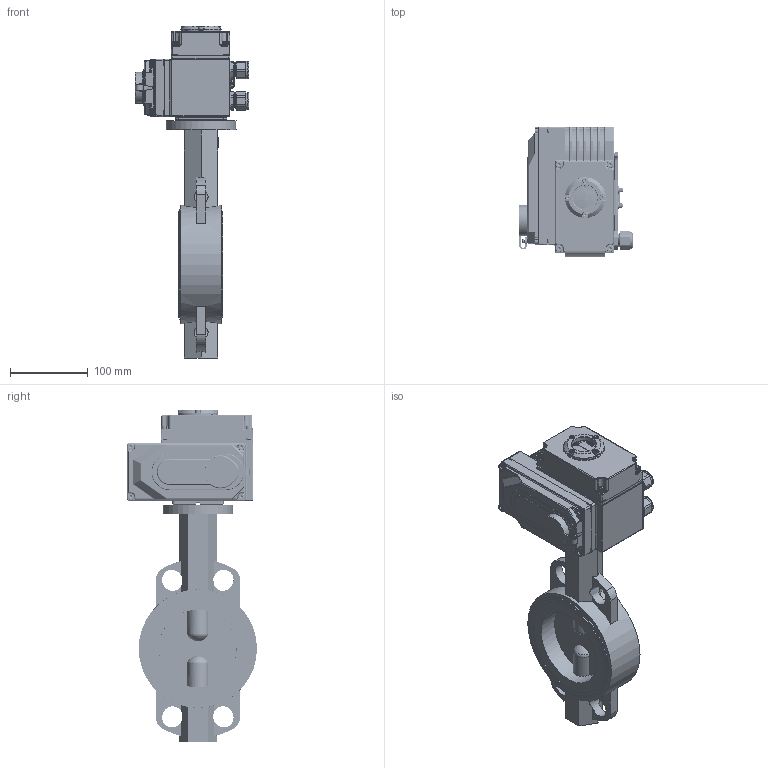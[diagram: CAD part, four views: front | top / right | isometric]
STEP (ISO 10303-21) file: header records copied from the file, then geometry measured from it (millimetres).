
FILE_DESCRIPTION(('STEP AP203'), '1');
FILE_NAME('3D_200_201-100-16-Ï.31', '', ('UNSPECIFIED'), ('UNSPECIFIED'), 'C3D Converter', 'C3D Toolkit', '');
FILE_SCHEMA(('CONFIG_CONTROL_DESIGN'));
Length unit declared in the file: millimetre
Bounding box: 145.5 x 167 x 426.5 mm (x, y, z)
Volume: 18332.1 mm3; surface area: 267274.3 mm2
Topology: 42 solids, 43 shells, 5896 faces, 16276 edges, 10453 vertices
Faces by surface type: plane 3467, cylinder 1364, cone 326, bspline 319, torus 309, sphere 111
Full cylindrical faces by diameter (mm): 2 x2, 2.5 x3, 3 x2, 3.2 x1, 3.3 x2, 4 x20, 4.2 x7, 4.4 x8, 4.5 x4, 4.7 x4, 5 x48, 5.6 x1, 5.8 x8, 6 x23, 6.4 x2, 6.8 x4, 7 x4, 7.8 x8, 9 x2, 9.78 x4, 10 x5, 10.5 x2, 12 x4, 16 x2, 20 x2, 22 x2, 25 x1, 30 x1, 32 x2, 37.7 x1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
Entity records: 348165 total; most frequent: CARTESIAN_POINT 157349, ORIENTED_EDGE 31387, DIRECTION 27426, EDGE_CURVE 15694, VERTEX_POINT 10419, AXIS2_PLACEMENT_3D 9330, LINE 8766, VECTOR 8766
